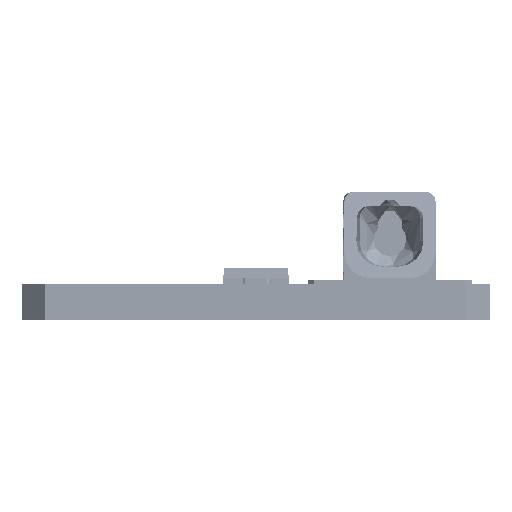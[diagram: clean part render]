
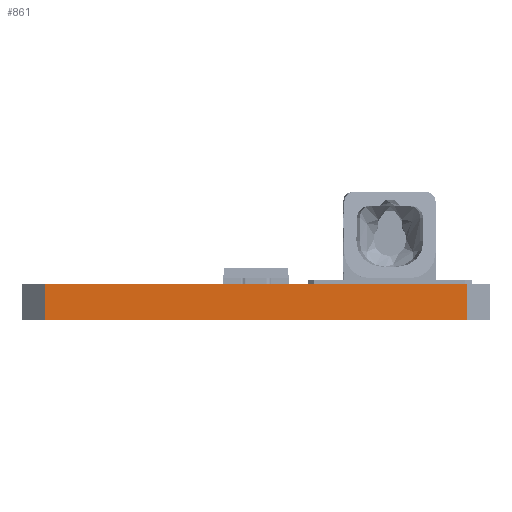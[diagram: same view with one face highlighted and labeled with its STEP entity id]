
A CAD part, left-side view. The second image highlights one B-rep face of the part: STEP entity #861.
In plain terms, the highlighted planar face has unit normal (-1, 0, 0).
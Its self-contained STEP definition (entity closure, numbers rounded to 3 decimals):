
#834 = EDGE_CURVE('',#835,#837,#839,.T.);
#835 = VERTEX_POINT('',#836);
#836 = CARTESIAN_POINT('',(0.,1.,0.));
#837 = VERTEX_POINT('',#838);
#838 = CARTESIAN_POINT('',(0.,1.,1.56));
#839 = LINE('',#840,#841);
#840 = CARTESIAN_POINT('',(0.,1.,0.));
#841 = VECTOR('',#842,1.);
#842 = DIRECTION('',(0.,0.,1.));
#861 = ADVANCED_FACE('',(#862),#887,.F.);
#862 = FACE_BOUND('',#863,.F.);
#863 = EDGE_LOOP('',(#864,#874,#880,#881));
#864 = ORIENTED_EDGE('',*,*,#865,.T.);
#865 = EDGE_CURVE('',#866,#868,#870,.T.);
#866 = VERTEX_POINT('',#867);
#867 = CARTESIAN_POINT('',(0.,19.,0.));
#868 = VERTEX_POINT('',#869);
#869 = CARTESIAN_POINT('',(0.,19.,1.56));
#870 = LINE('',#871,#872);
#871 = CARTESIAN_POINT('',(0.,19.,0.));
#872 = VECTOR('',#873,1.);
#873 = DIRECTION('',(0.,0.,1.));
#874 = ORIENTED_EDGE('',*,*,#875,.T.);
#875 = EDGE_CURVE('',#868,#837,#876,.T.);
#876 = LINE('',#877,#878);
#877 = CARTESIAN_POINT('',(0.,19.,1.56));
#878 = VECTOR('',#879,1.);
#879 = DIRECTION('',(0.,-1.,0.));
#880 = ORIENTED_EDGE('',*,*,#834,.F.);
#881 = ORIENTED_EDGE('',*,*,#882,.F.);
#882 = EDGE_CURVE('',#866,#835,#883,.T.);
#883 = LINE('',#884,#885);
#884 = CARTESIAN_POINT('',(0.,19.,0.));
#885 = VECTOR('',#886,1.);
#886 = DIRECTION('',(0.,-1.,0.));
#887 = PLANE('',#888);
#888 = AXIS2_PLACEMENT_3D('',#889,#890,#891);
#889 = CARTESIAN_POINT('',(0.,19.,0.));
#890 = DIRECTION('',(1.,0.,-0.));
#891 = DIRECTION('',(0.,-1.,0.));
